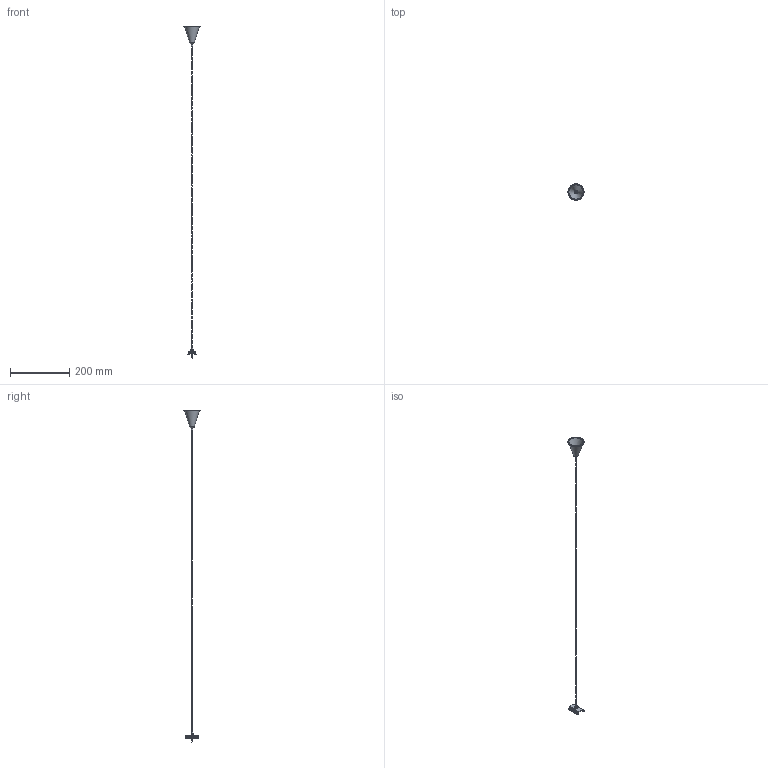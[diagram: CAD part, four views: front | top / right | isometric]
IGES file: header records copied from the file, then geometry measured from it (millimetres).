
Start section: SolidWorks IGES file using NURBS representation for surfaces
Global section: file name: Z:\Modele 3D_WWW\_KOLEKCJE WWW\PROFILE SYSTEM\PROFILE-SUSPENSION-KIT-9461-9460\PROFILE-SUSPENSION-KIT-9461-9460.IGS; native system: SolidWorks 2021; preprocessor: SolidWorks 2021; author: gabriela.tworek; date: 220214.131654; units: millimetre
Bounding box: 54.96 x 55 x 1124.32 mm (x, y, z)
Surface area: 22997 mm2 (no closed solid volume)
Topology: 0 solids, 0 shells, 63 faces, 264 edges, 246 vertices
Faces by surface type: bspline 63
